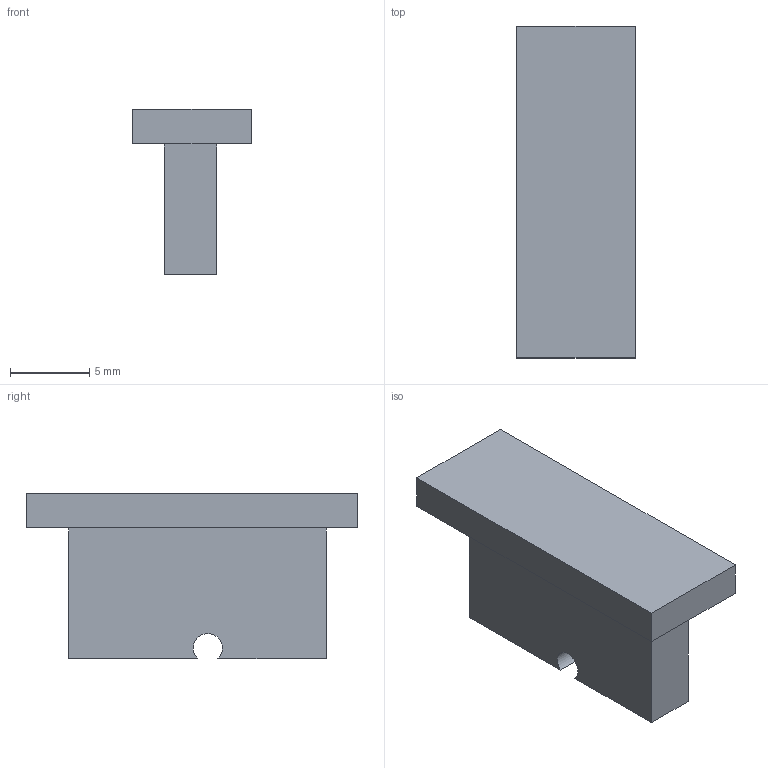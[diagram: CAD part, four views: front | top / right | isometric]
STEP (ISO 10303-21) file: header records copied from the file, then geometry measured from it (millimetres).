
FILE_DESCRIPTION(('Open CASCADE Model'),'2;1');
FILE_NAME('QF04_J8_SHARED_CLEARANCE_STRAP_TEST_BASE', '2026-09-15T14:22:30',('Author'),('Open CASCADE'), 'Open CASCADE STEP processor 7.9','build123d','Unknown');
FILE_SCHEMA(('AUTOMOTIVE_DESIGN { 1 0 10303 214 1 1 1 1 }'));
Length unit declared in the file: millimetre
Products named in the file (1): QF04_J8_SHARED_CLEARANCE_STRAP_TEST_BASE
Bounding box: 7.5 x 21 x 10.47 mm (x, y, z)
Volume: 783.5 mm3; surface area: 770.2 mm2
Topology: 1 solids, 1 shells, 14 faces, 33 edges, 22 vertices
Faces by surface type: plane 12, cylinder 2
Entity records: 838 total; most frequent: CARTESIAN_POINT 138, DIRECTION 131, LINE 89, VECTOR 89, ORIENTED_EDGE 66, PCURVE 66, DEFINITIONAL_REPRESENTATION 66, EDGE_CURVE 33
